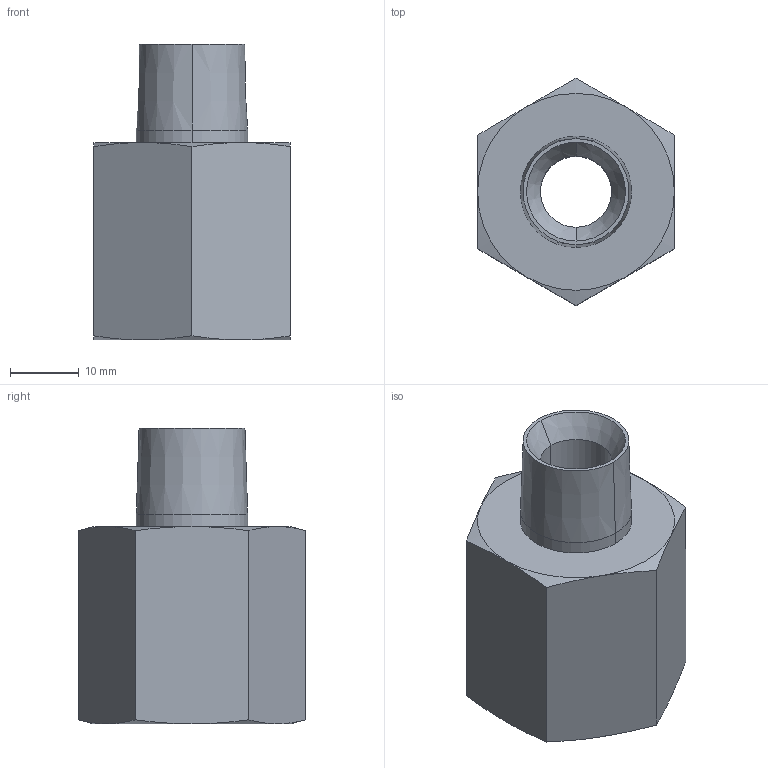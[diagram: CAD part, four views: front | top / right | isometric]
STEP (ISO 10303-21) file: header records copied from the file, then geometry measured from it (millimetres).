
FILE_DESCRIPTION((''),'2;1');
FILE_NAME('1-2_X_3-8_FG-S','2011-06-29T',('chad.steele'),(''),'PRO/ENGINEER BY PARAMETRIC TECHNOLOGY CORPORATION, 2010040','PRO/ENGINEER BY PARAMETRIC TECHNOLOGY CORPORATION, 2010040','');
FILE_SCHEMA(('CONFIG_CONTROL_DESIGN'));
Length unit declared in the file: inch
Products named in the file (1): 1-2_X_3-8_FG-S
Bounding box: 28.57 x 33 x 42.93 mm (x, y, z)
Volume: 16838.7 mm3; surface area: 6405 mm2
Topology: 1 solids, 1 shells, 32 faces, 72 edges, 44 vertices
Faces by surface type: cone 18, plane 10, cylinder 4
Entity records: 1025 total; most frequent: CARTESIAN_POINT 285, DIRECTION 144, ORIENTED_EDGE 144, EDGE_CURVE 72, AXIS2_PLACEMENT_3D 64, VERTEX_POINT 44, EDGE_LOOP 36, FACE_OUTER_BOUND 32
